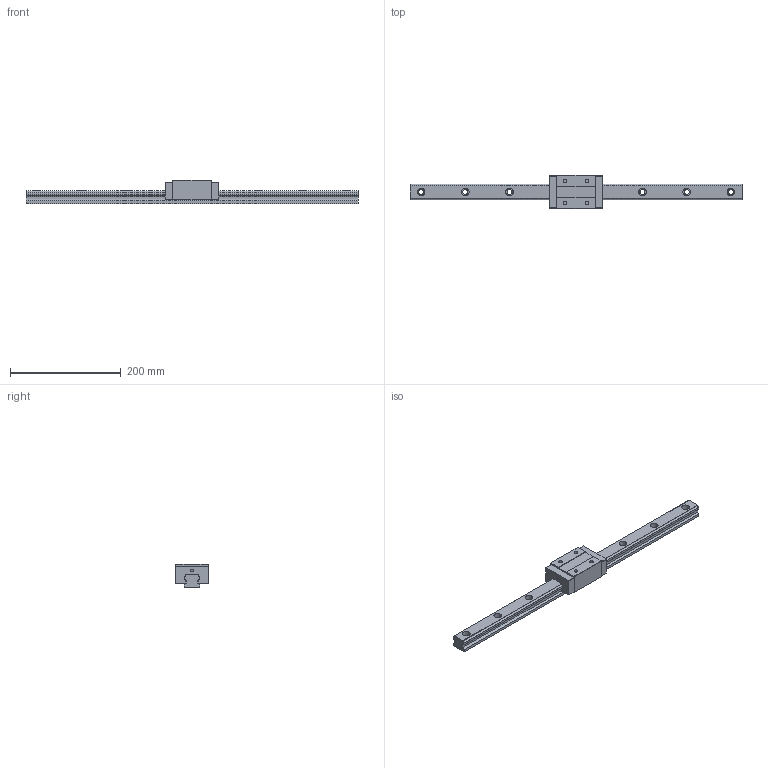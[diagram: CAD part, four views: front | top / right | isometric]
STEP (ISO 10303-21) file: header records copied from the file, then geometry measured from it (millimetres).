
FILE_DESCRIPTION(/* description */ (''),/* implementation_level */ '2;1');
FILE_NAME(/* name */ 'TRS30VN-XN.stp',/* time_stamp */ '2017-10-25T17:09:24+08:00',/* author */ (''),/* organization */ (''),/* preprocessor_version */ 'ST-DEVELOPER v11',/* originating_system */ 'SIEMENS UGS NX 6.0',/* authorisation */ '');
FILE_SCHEMA (('AUTOMOTIVE_DESIGN { 1 0 10303 214 1 1 1 1 }'));
Length unit declared in the file: millimetre
Products named in the file (1): TRS30VN-XN
Bounding box: 600 x 60 x 42 mm (x, y, z)
Volume: 480546.1 mm3; surface area: 95820.7 mm2
Topology: 2 solids, 2 shells, 120 faces, 298 edges, 196 vertices
Faces by surface type: plane 78, cylinder 42
Full cylindrical faces by diameter (mm): 5 x2, 6.75 x4, 9 x8, 14 x8
Entity records: 3946 total; most frequent: DIRECTION 594, CARTESIAN_POINT 577, ORIENTED_EDGE 536, EDGE_CURVE 268, AXIS2_PLACEMENT_3D 205, VERTEX_POINT 188, LINE 184, VECTOR 184
